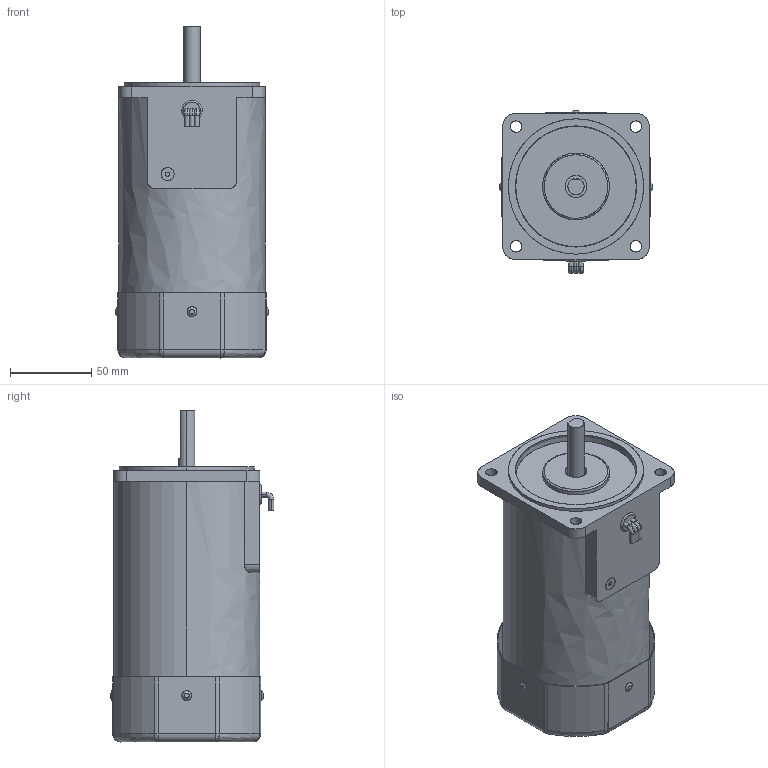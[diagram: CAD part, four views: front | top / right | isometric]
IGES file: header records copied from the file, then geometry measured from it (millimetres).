
Start section: SolidWorks IGES file using analytic representation for surfaces
Bounding box: 94 x 100.5 x 204 mm (x, y, z)
Surface area: 150232.4 mm2 (no closed solid volume)
Topology: 0 solids, 0 shells, 210 faces, 3790 edges, 3774 vertices
Faces by surface type: revolution 106, bspline 104
